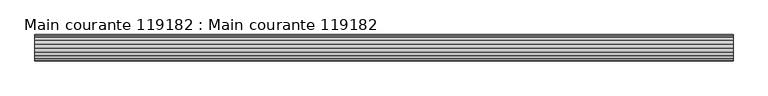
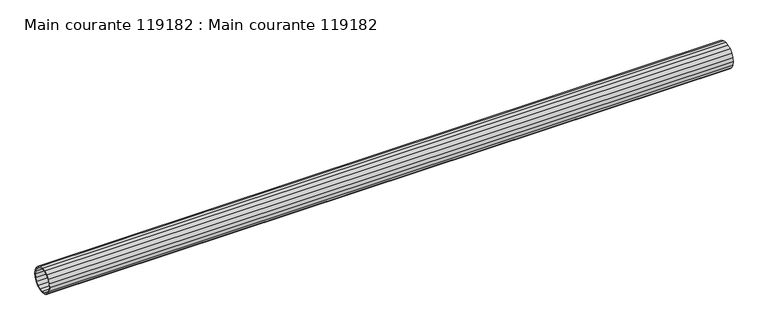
"""IFC4 building model written with IfcOpenShell, lengths in millimetres: beam geometry, Main courante 119182 : Main courante 119182."""

from ifc_helpers import new_model, si_unit, frame, origin, place, context, project, spatial, polyline, outline, extrude, source, transform, mapped, element, save


def main_courante_119182_main_courante_119182_d67acb24(model_context):
    return source(origin(), model_context, "Body", "SweptSolid", [
        extrude(outline(polyline([(-24956.0, 8765.0), (-24954.8180149, 8772.4627604), (-24951.3877604, 8779.1950138), (-24946.0450138, 8784.5377604), (-24939.3127604, 8787.9680149), (-24931.85, 8789.15), (-24924.3872396, 8787.9680149), (-24917.6549862, 8784.5377604), (-24912.3122396, 8779.1950138), (-24908.8819851, 8772.4627604), (-24907.7, 8765.0), (-24908.8819851, 8757.5372396), (-24912.3122396, 8750.8049862), (-24917.6549862, 8745.4622396), (-24924.3872396, 8742.0319851), (-24931.85, 8740.85), (-24939.3127604, 8742.0319851), (-24946.0450138, 8745.4622396), (-24951.3877604, 8750.8049862), (-24954.8180149, 8757.5372396), (-24956.0, 8765.0)]), holes=[polyline([(-24910.2, 8765.0), (-24911.2596264, 8771.6902179), (-24914.3347821, 8777.7255507), (-24919.1244493, 8782.5152179), (-24925.1597821, 8785.5903736), (-24931.85, 8786.65), (-24938.5402179, 8785.5903736), (-24944.5755507, 8782.5152179), (-24949.3652179, 8777.7255507), (-24952.4403736, 8771.6902179), (-24953.5, 8765.0), (-24952.4403736, 8758.3097821), (-24949.3652179, 8752.2744493), (-24944.5755507, 8747.4847821), (-24938.5402179, 8744.4096264), (-24931.85, 8743.35), (-24925.1597821, 8744.4096264), (-24919.1244493, 8747.4847821), (-24914.3347821, 8752.2744493), (-24911.2596264, 8758.3097821), (-24910.2, 8765.0)])]), frame((14098.4999999, 0.0, 0.0), z_axis=(1.0, 0.0, 0.0), x_axis=(0.0, 1.0, 0.0)), (0.0, 0.0, 1.0), 1279.5),
    ])


if __name__ == "__main__":
    model = new_model("IFC4")
    model_context = context("Model", 3, world=origin())
    ifc_project = project(units=[si_unit("LENGTHUNIT", "METRE", prefix="MILLI")], contexts=[model_context])
    site = spatial("IfcSite", under=ifc_project)
    building = spatial("IfcBuilding", under=site)
    placement = place(None, origin())
    main_courante_119182_main_courante_119182_shape = main_courante_119182_main_courante_119182_d67acb24(model_context)
    element("IfcBeam", 1, ObjectType="Main courante 119182 : Main courante 119182", at=placement, inside=building, context=model_context, shape_type="MappedRepresentation", body=[
        mapped(main_courante_119182_main_courante_119182_shape, transform((0.0, 0.0, 0.0), x_axis=(1.0, 0.0, 0.0), y_axis=(0.0, 1.0, 0.0), z_axis=(0.0, 0.0, 1.0))),
    ])
    save(model, "model.ifc")
